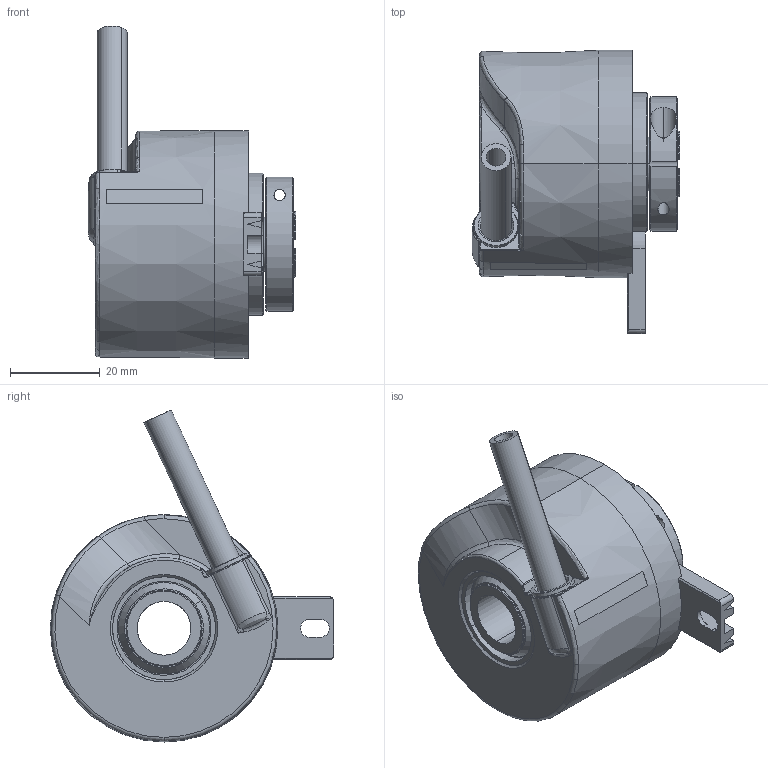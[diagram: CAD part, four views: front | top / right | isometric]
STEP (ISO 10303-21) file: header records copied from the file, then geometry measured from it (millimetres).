
FILE_DESCRIPTION (( 'STEP AP214' ), '1' );
FILE_NAME ('5020.25XE.XXXX.STEP', '2011-01-05T10:10:18', ( 'admin' ), ( 'Fritz Kübler GmbH' ), 'SwSTEP 2.0', 'SolidWorks 2009', '' );
FILE_SCHEMA (( 'AUTOMOTIVE_DESIGN' ));
Length unit declared in the file: millimetre
Products named in the file (1): 5020.25XE.XXXX
Bounding box: 46.3 x 63.3 x 74.14 mm (x, y, z)
Surface area: 18270.2 mm2 (no closed solid volume)
Topology: 0 solids, 12 shells, 201 faces, 605 edges, 400 vertices
Faces by surface type: cylinder 75, plane 61, cone 25, torus 21, bspline 19
Entity records: 11668 total; most frequent: CARTESIAN_POINT 4078, DIRECTION 1150, ORIENTED_EDGE 1036, EDGE_CURVE 599, AXIS2_PLACEMENT_3D 451, VERTEX_POINT 400, CIRCLE 268, VECTOR 248
